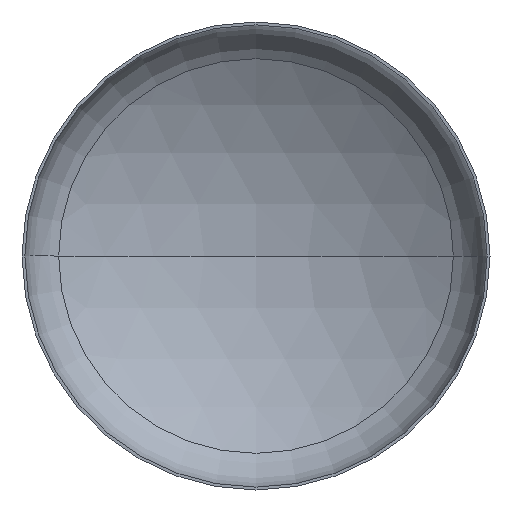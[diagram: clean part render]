
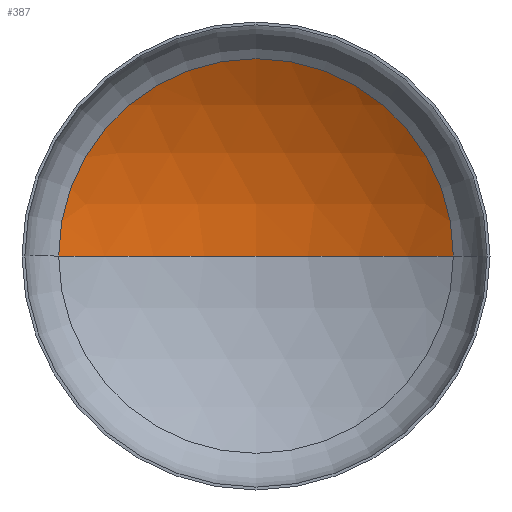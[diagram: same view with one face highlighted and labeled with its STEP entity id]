
A CAD part, front view. The second image highlights one B-rep face of the part: STEP entity #387.
In plain terms, the highlighted spherical face has radius 1440 mm.
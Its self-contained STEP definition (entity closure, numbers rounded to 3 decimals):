
#1 = AXIS2_PLACEMENT_3D ( 'NONE', #242, #406, #263 ) ;
#19 = ORIENTED_EDGE ( 'NONE', *, *, #351, .T. ) ;
#20 = EDGE_LOOP ( 'NONE', ( #121, #19, #182 ) ) ;
#24 = AXIS2_PLACEMENT_3D ( 'NONE', #401, #256, #359 ) ;
#26 = AXIS2_PLACEMENT_3D ( 'NONE', #378, #312, #238 ) ;
#53 = CARTESIAN_POINT ( 'NONE',  ( 0., -950.065, 0. ) ) ;
#59 = VERTEX_POINT ( 'NONE', #235 ) ;
#93 = VERTEX_POINT ( 'NONE', #204 ) ;
#121 = ORIENTED_EDGE ( 'NONE', *, *, #392, .F. ) ;
#132 = VERTEX_POINT ( 'NONE', #308 ) ;
#166 = DIRECTION ( 'NONE',  ( 0., 0., -1. ) ) ;
#182 = ORIENTED_EDGE ( 'NONE', *, *, #348, .T. ) ;
#190 = CIRCLE ( 'NONE', #1, 1440. ) ;
#204 = CARTESIAN_POINT ( 'NONE',  ( -758.936, 273.706, 0. ) ) ;
#210 = CIRCLE ( 'NONE', #24, 758.936 ) ;
#232 = AXIS2_PLACEMENT_3D ( 'NONE', #53, #166, #407 ) ;
#235 = CARTESIAN_POINT ( 'NONE',  ( 758.936, 273.706, 0. ) ) ;
#238 = DIRECTION ( 'NONE',  ( -1., 0., 0. ) ) ;
#242 = CARTESIAN_POINT ( 'NONE',  ( 0., -950.065, 0. ) ) ;
#256 = DIRECTION ( 'NONE',  ( 0., -1., 0. ) ) ;
#263 = DIRECTION ( 'NONE',  ( 1., 0., 0. ) ) ;
#308 = CARTESIAN_POINT ( 'NONE',  ( 0., 489.935, 0. ) ) ;
#312 = DIRECTION ( 'NONE',  ( 0., 0., -1. ) ) ;
#328 = SPHERICAL_SURFACE ( 'NONE', #232, 1440. ) ;
#348 = EDGE_CURVE ( 'NONE', #59, #93, #210, .T. ) ;
#351 = EDGE_CURVE ( 'NONE', #132, #59, #400, .T. ) ;
#359 = DIRECTION ( 'NONE',  ( 1., 0., 0. ) ) ;
#378 = CARTESIAN_POINT ( 'NONE',  ( 0., -950.065, 0. ) ) ;
#384 = FACE_OUTER_BOUND ( 'NONE', #20, .T. ) ;
#387 = ADVANCED_FACE ( 'NONE', ( #384 ), #328, .F. ) ;
#392 = EDGE_CURVE ( 'NONE', #132, #93, #190, .T. ) ;
#400 = CIRCLE ( 'NONE', #26, 1440. ) ;
#401 = CARTESIAN_POINT ( 'NONE',  ( 0., 273.706, 0. ) ) ;
#406 = DIRECTION ( 'NONE',  ( 0., 0., 1. ) ) ;
#407 = DIRECTION ( 'NONE',  ( -1., 0., 0. ) ) ;
